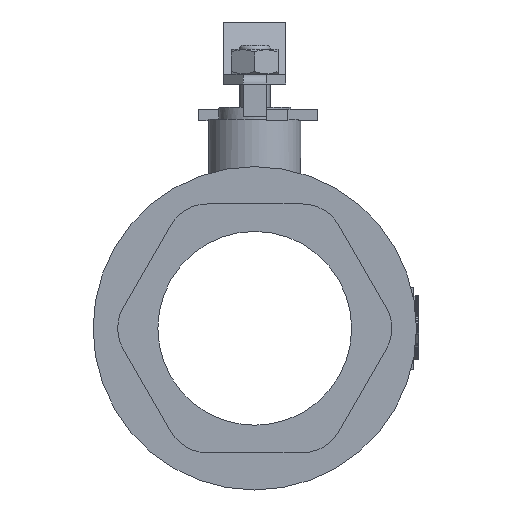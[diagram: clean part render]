
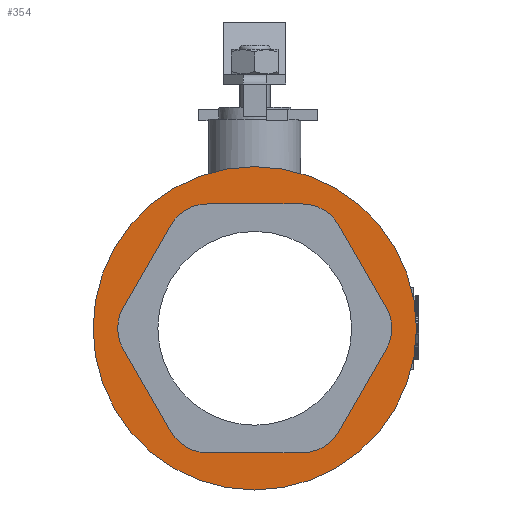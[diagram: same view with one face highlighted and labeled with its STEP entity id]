
A CAD part, left-side view. The second image highlights one B-rep face of the part: STEP entity #354.
In plain terms, the highlighted planar face has unit normal (-1, 0, 0).
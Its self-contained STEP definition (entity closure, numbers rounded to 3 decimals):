
#354=ADVANCED_FACE('',(#8725,#8727),#8729,.T.);
#8725=FACE_BOUND('',#8726,.T.);
#8726=EDGE_LOOP('',(#15253,#15254));
#8727=FACE_BOUND('',#8728,.T.);
#8728=EDGE_LOOP('',(#15255,#15256,#15257,#15258,#15259,#15260,#15261,#15262,#15263,
#15264,#15265,#15266));
#8729=PLANE('',#8730);
#8730=AXIS2_PLACEMENT_3D('',#8731,#8732,#8733);
#8731=CARTESIAN_POINT('',(11346.576,4048.926,40.38));
#8732=DIRECTION('',(-1.,0.,0.));
#8733=DIRECTION('',(0.,-1.,0.));
#15253=ORIENTED_EDGE('',*,*,#20656,.F.);
#15254=ORIENTED_EDGE('',*,*,#20657,.F.);
#15255=ORIENTED_EDGE('',*,*,#20658,.F.);
#15256=ORIENTED_EDGE('',*,*,#20659,.F.);
#15257=ORIENTED_EDGE('',*,*,#20660,.F.);
#15258=ORIENTED_EDGE('',*,*,#20661,.F.);
#15259=ORIENTED_EDGE('',*,*,#20662,.F.);
#15260=ORIENTED_EDGE('',*,*,#20663,.F.);
#15261=ORIENTED_EDGE('',*,*,#20664,.F.);
#15262=ORIENTED_EDGE('',*,*,#20665,.F.);
#15263=ORIENTED_EDGE('',*,*,#20666,.F.);
#15264=ORIENTED_EDGE('',*,*,#20667,.F.);
#15265=ORIENTED_EDGE('',*,*,#20668,.F.);
#15266=ORIENTED_EDGE('',*,*,#20669,.F.);
#20656=EDGE_CURVE('',#23455,#23456,#23457,.T.);
#20657=EDGE_CURVE('',#23456,#23455,#23458,.T.);
#20658=EDGE_CURVE('',#23459,#23460,#23461,.T.);
#20659=EDGE_CURVE('',#23462,#23459,#23463,.T.);
#20660=EDGE_CURVE('',#23464,#23462,#23465,.T.);
#20661=EDGE_CURVE('',#23466,#23464,#23467,.T.);
#20662=EDGE_CURVE('',#23468,#23466,#23469,.T.);
#20663=EDGE_CURVE('',#23470,#23468,#23471,.T.);
#20664=EDGE_CURVE('',#23472,#23470,#23473,.T.);
#20665=EDGE_CURVE('',#23474,#23472,#23475,.T.);
#20666=EDGE_CURVE('',#23476,#23474,#23477,.T.);
#20667=EDGE_CURVE('',#23478,#23476,#23479,.T.);
#20668=EDGE_CURVE('',#23480,#23478,#23481,.T.);
#20669=EDGE_CURVE('',#23460,#23480,#23482,.T.);
#23455=VERTEX_POINT('',#28511);
#23456=VERTEX_POINT('',#28512);
#23457=CIRCLE('',#28513,83.41);
#23458=CIRCLE('',#28517,83.41);
#23459=VERTEX_POINT('',#28521);
#23460=VERTEX_POINT('',#28522);
#23461=CIRCLE('',#28523,21.815);
#23462=VERTEX_POINT('',#28527);
#23463=LINE('',#28528,#28529);
#23464=VERTEX_POINT('',#28531);
#23465=CIRCLE('',#28532,21.815);
#23466=VERTEX_POINT('',#28536);
#23467=LINE('',#28537,#28538);
#23468=VERTEX_POINT('',#28540);
#23469=CIRCLE('',#28541,21.815);
#23470=VERTEX_POINT('',#28545);
#23471=LINE('',#28546,#28547);
#23472=VERTEX_POINT('',#28549);
#23473=CIRCLE('',#28550,21.815);
#23474=VERTEX_POINT('',#28554);
#23475=LINE('',#28555,#28556);
#23476=VERTEX_POINT('',#28558);
#23477=CIRCLE('',#28559,21.815);
#23478=VERTEX_POINT('',#28563);
#23479=LINE('',#28564,#28565);
#23480=VERTEX_POINT('',#28567);
#23481=CIRCLE('',#28568,21.815);
#23482=LINE('',#28572,#28573);
#28511=CARTESIAN_POINT('',(11346.576,4048.926,-126.441));
#28512=CARTESIAN_POINT('',(11346.576,4048.926,40.38));
#28513=AXIS2_PLACEMENT_3D('',#28514,#28515,#28516);
#28514=CARTESIAN_POINT('',(11346.576,4048.926,-43.03));
#28515=DIRECTION('',(1.,0.,0.));
#28516=DIRECTION('',(0.,0.,-1.));
#28517=AXIS2_PLACEMENT_3D('',#28518,#28519,#28520);
#28518=CARTESIAN_POINT('',(11346.576,4048.926,-43.03));
#28519=DIRECTION('',(1.,0.,0.));
#28520=DIRECTION('',(0.,0.,1.));
#28521=CARTESIAN_POINT('',(11346.576,4024.477,-107.192));
#28522=CARTESIAN_POINT('',(11346.576,4005.585,-96.285));
#28523=AXIS2_PLACEMENT_3D('',#28524,#28525,#28526);
#28524=CARTESIAN_POINT('',(11346.576,4024.477,-85.377));
#28525=DIRECTION('',(-1.,0.,0.));
#28526=DIRECTION('',(0.,0.,-1.));
#28527=CARTESIAN_POINT('',(11346.576,4073.375,-107.192));
#28528=CARTESIAN_POINT('',(11346.576,4073.375,-107.192));
#28529=VECTOR('',#28530,1.);
#28530=DIRECTION('',(0.,-1.,0.));
#28531=CARTESIAN_POINT('',(11346.576,4092.267,-96.285));
#28532=AXIS2_PLACEMENT_3D('',#28533,#28534,#28535);
#28533=CARTESIAN_POINT('',(11346.576,4073.375,-85.377));
#28534=DIRECTION('',(-1.,0.,0.));
#28535=DIRECTION('',(0.,0.866,-0.5));
#28536=CARTESIAN_POINT('',(11346.576,4116.716,-53.938));
#28537=CARTESIAN_POINT('',(11346.576,4116.716,-53.938));
#28538=VECTOR('',#28539,1.);
#28539=DIRECTION('',(0.,-0.5,-0.866));
#28540=CARTESIAN_POINT('',(11346.576,4116.716,-32.123));
#28541=AXIS2_PLACEMENT_3D('',#28542,#28543,#28544);
#28542=CARTESIAN_POINT('',(11346.576,4097.824,-43.03));
#28543=DIRECTION('',(-1.,0.,0.));
#28544=DIRECTION('',(0.,0.866,0.5));
#28545=CARTESIAN_POINT('',(11346.576,4092.267,10.224));
#28546=CARTESIAN_POINT('',(11346.576,4092.267,10.224));
#28547=VECTOR('',#28548,1.);
#28548=DIRECTION('',(0.,0.5,-0.866));
#28549=CARTESIAN_POINT('',(11346.576,4073.375,21.132));
#28550=AXIS2_PLACEMENT_3D('',#28551,#28552,#28553);
#28551=CARTESIAN_POINT('',(11346.576,4073.375,-0.683));
#28552=DIRECTION('',(-1.,0.,0.));
#28553=DIRECTION('',(0.,0.,1.));
#28554=CARTESIAN_POINT('',(11346.576,4024.477,21.132));
#28555=CARTESIAN_POINT('',(11346.576,4024.477,21.132));
#28556=VECTOR('',#28557,1.);
#28557=DIRECTION('',(0.,1.,0.));
#28558=CARTESIAN_POINT('',(11346.576,4005.585,10.224));
#28559=AXIS2_PLACEMENT_3D('',#28560,#28561,#28562);
#28560=CARTESIAN_POINT('',(11346.576,4024.477,-0.683));
#28561=DIRECTION('',(-1.,0.,0.));
#28562=DIRECTION('',(0.,-0.866,0.5));
#28563=CARTESIAN_POINT('',(11346.576,3981.136,-32.123));
#28564=CARTESIAN_POINT('',(11346.576,3981.136,-32.123));
#28565=VECTOR('',#28566,1.);
#28566=DIRECTION('',(0.,0.5,0.866));
#28567=CARTESIAN_POINT('',(11346.576,3981.136,-53.938));
#28568=AXIS2_PLACEMENT_3D('',#28569,#28570,#28571);
#28569=CARTESIAN_POINT('',(11346.576,4000.028,-43.03));
#28570=DIRECTION('',(-1.,0.,0.));
#28571=DIRECTION('',(0.,-0.866,-0.5));
#28572=CARTESIAN_POINT('',(11346.576,4005.585,-96.285));
#28573=VECTOR('',#28574,1.);
#28574=DIRECTION('',(0.,-0.5,0.866));
